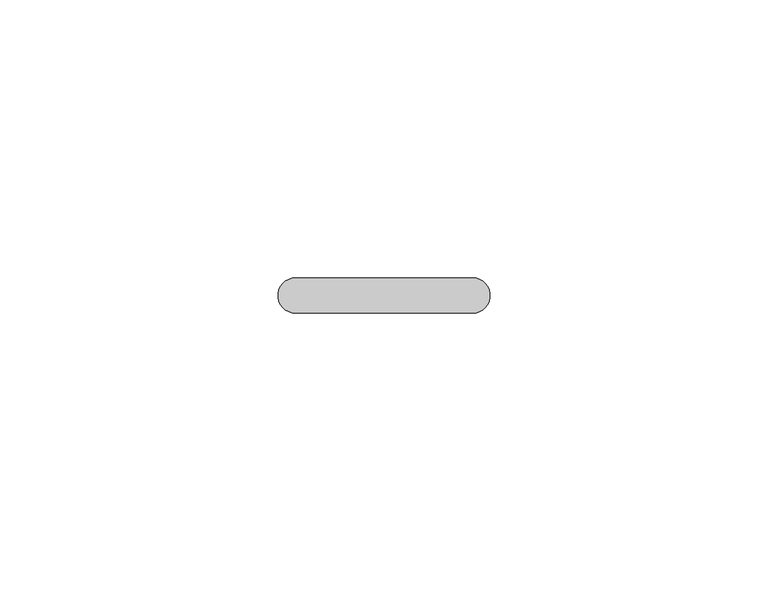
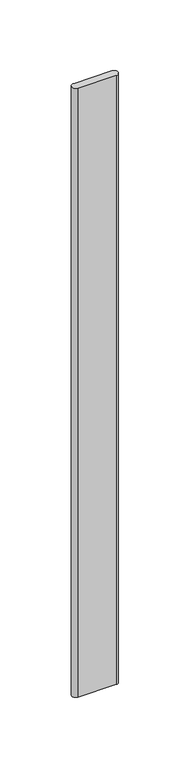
"""IFC4 building model written with IfcOpenShell, lengths in millimetres: proxy geometry, Durabond Generic Model Insulation Adhesive Flat : Durabond Generic Model Insulation Adhesive Flat."""

from ifc_helpers import new_model, si_unit, point, frame_2d, origin, origin_with_axes, place, context, project, spatial, polyline, circle_curve, trimmed, segment, composite_curve, outline, extrude, source, transform, mapped, element, save


def generic_models_0ed8512b(model_context):
    return source(origin(), model_context, "Body", "SweptSolid", [
        extrude(outline(composite_curve([segment(trimmed(circle_curve(frame_2d((15.875, 0.0)), 3.175), [point((15.875, 3.175))], [point((15.875, -3.175))], False, "CARTESIAN"), True, "CONTINUOUS"), segment(polyline([(15.875, -3.175), (-15.875, -3.175)]), True, "CONTINUOUS"), segment(trimmed(circle_curve(frame_2d((-15.875, 0.0)), 3.175), [point((-15.875, -3.175))], [point((-15.875, 3.175))], False, "CARTESIAN"), True, "CONTINUOUS"), segment(polyline([(-15.875, 3.175), (15.875, 3.175)]), True, "CONTINUOUS")], self_intersect=False)), origin_with_axes(), (0.0, 0.0, 1.0), 533.4),
    ])


if __name__ == "__main__":
    model = new_model("IFC4")
    model_context = context("Model", 3, world=origin())
    ifc_project = project(units=[si_unit("LENGTHUNIT", "METRE", prefix="MILLI")], contexts=[model_context])
    site = spatial("IfcSite", under=ifc_project)
    building = spatial("IfcBuilding", under=site)
    placement = place(None, origin())
    generic_models_shape = generic_models_0ed8512b(model_context)
    element("IfcBuildingElementProxy", 1, Name="Durabond Generic Model Insulation Adhesive Flat : Durabond Generic Model Insulation Adhesive Flat", ObjectType="Durabond Generic Model Insulation Adhesive Flat : Durabond Generic Model Insulation Adhesive Flat", at=placement, inside=building, context=model_context, shape_type="MappedRepresentation", body=[
        mapped(generic_models_shape, transform((0.0, 0.0, 0.0), x_axis=(1.0, 0.0, 0.0), y_axis=(0.0, 1.0, 0.0), z_axis=(0.0, 0.0, 1.0))),
    ])
    save(model, "model.ifc")
